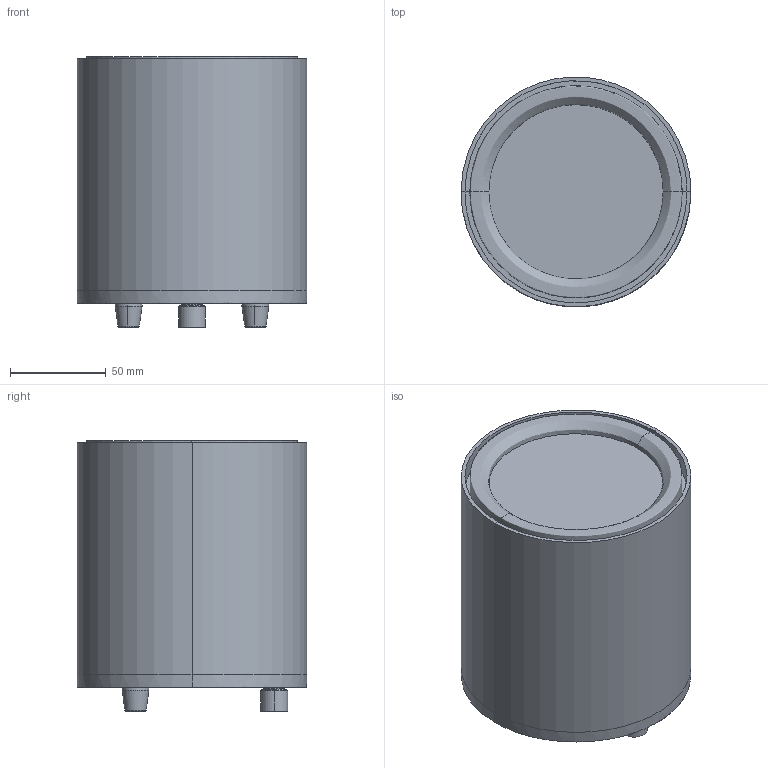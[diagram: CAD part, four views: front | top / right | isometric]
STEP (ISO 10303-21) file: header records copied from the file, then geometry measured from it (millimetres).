
FILE_DESCRIPTION(/* description */ (''),/* implementation_level */ '2;1');
FILE_NAME(/* name */ '220506_ROXX_B.Flex mini_STEP',/* time_stamp */ '2022-05-09T14:55:58+02:00',/* author */ (''),/* organization */ (''),/* preprocessor_version */ 'ST-DEVELOPER v16.5',/* originating_system */ 'Rhino 7.17',/* authorisation */ '');
FILE_SCHEMA (('CONFIG_CONTROL_DESIGN'));
Length unit declared in the file: millimetre
Products named in the file (1): Document
Bounding box: 120 x 119.85 x 141.4 mm (x, y, z)
Volume: 1403490.4 mm3; surface area: 82812.5 mm2
Topology: 1 solids, 1 shells, 85 faces, 184 edges, 110 vertices
Faces by surface type: cylinder 35, bspline 26, plane 24
Entity records: 2965 total; most frequent: CARTESIAN_POINT 1718, ORIENTED_EDGE 368, EDGE_CURVE 184, VERTEX_POINT 110, EDGE_LOOP 94, ADVANCED_FACE 85, FACE_OUTER_BOUND 85, DIRECTION 63
